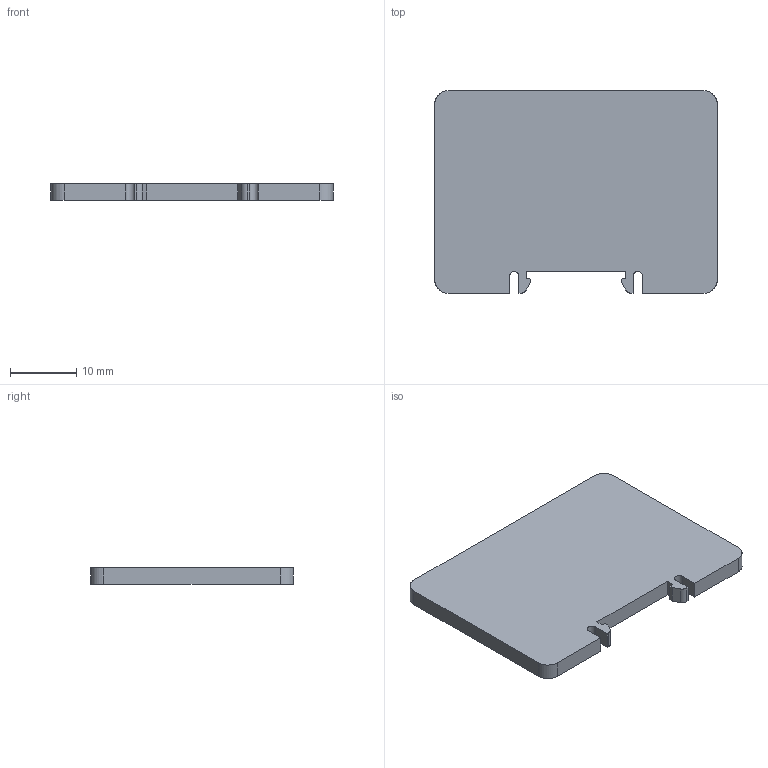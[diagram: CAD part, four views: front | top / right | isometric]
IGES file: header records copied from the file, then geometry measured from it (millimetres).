
Global section: file name: 1413227_atp_mbk_select.igs; native system: OneSpace Designer 3D IGES; preprocessor: 12.01C  26-Mar-2004; date: 20041004.121205; units: millimetre
Bounding box: 42.5 x 30.5 x 2.5 mm (x, y, z)
Surface area: 2877.9 mm2 (no closed solid volume)
Topology: 0 solids, 0 shells, 30 faces, 240 edges, 240 vertices
Faces by surface type: bspline 30
